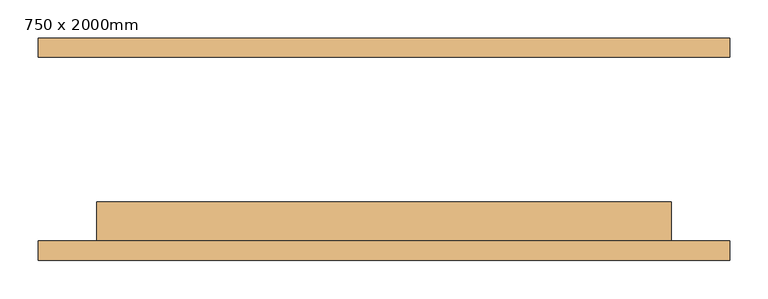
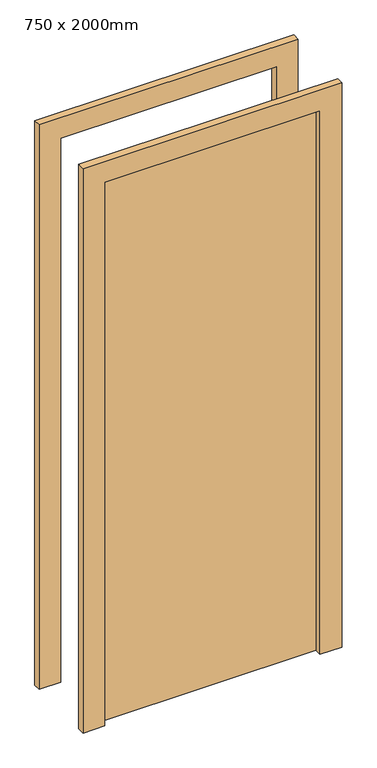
"""IFC4 building model written with IfcOpenShell, lengths in millimetres: door geometry, 单扇 - 与墙齐 : 750 x 2000mm."""

from ifc_helpers import new_model, si_unit, frame, origin, origin_with_axes, place, context, project, spatial, polyline, outline, extrude, source, transform, mapped, element, save


def door_750_x_2000mm_b382c1ce(model_context):
    return source(origin(), model_context, "Body", "SweptSolid", [
        extrude(outline(polyline([(2076.0, -451.0), (0.0, -451.0), (0.0, -375.0), (2000.0, -375.0), (2000.0, 375.0), (0.0, 375.0), (0.0, 451.0), (2076.0, 451.0), (2076.0, -451.0)])), frame((0.0, -145.0, 0.0), z_axis=(0.0, 1.0, 0.0), x_axis=(0.0, 0.0, 1.0)), (0.0, 0.0, 1.0), 25.0),
        extrude(outline(polyline([(2076.0, 451.0), (2076.0, -451.0), (0.0, -451.0), (0.0, -375.0), (2000.0, -375.0), (2000.0, 375.0), (0.0, 375.0), (0.0, 451.0), (2076.0, 451.0)])), frame((0.0, 120.0, 0.0), z_axis=(0.0, 1.0, 0.0), x_axis=(0.0, 0.0, 1.0)), (0.0, 0.0, 1.0), 25.0),
        extrude(outline(polyline([(375.0, -69.0), (375.0, -120.0), (-375.0, -120.0), (-375.0, -69.0), (375.0, -69.0)])), origin_with_axes(), (0.0, 0.0, 1.0), 2000.0),
    ])


if __name__ == "__main__":
    model = new_model("IFC4")
    model_context = context("Model", 3, world=origin())
    ifc_project = project(units=[si_unit("LENGTHUNIT", "METRE", prefix="MILLI")], contexts=[model_context])
    site = spatial("IfcSite", under=ifc_project)
    building = spatial("IfcBuilding", under=site)
    placement = place(None, origin())
    door_750_x_2000mm_shape = door_750_x_2000mm_b382c1ce(model_context)
    element("IfcDoor", 1, ObjectType="单扇 - 与墙齐 : 750 x 2000mm", at=placement, inside=building, context=model_context, shape_type="MappedRepresentation", body=[
        mapped(door_750_x_2000mm_shape, transform((0.0, 0.0, 0.0), x_axis=(1.0, 0.0, 0.0), y_axis=(0.0, 1.0, 0.0), z_axis=(0.0, 0.0, 1.0))),
    ])
    save(model, "model.ifc")
